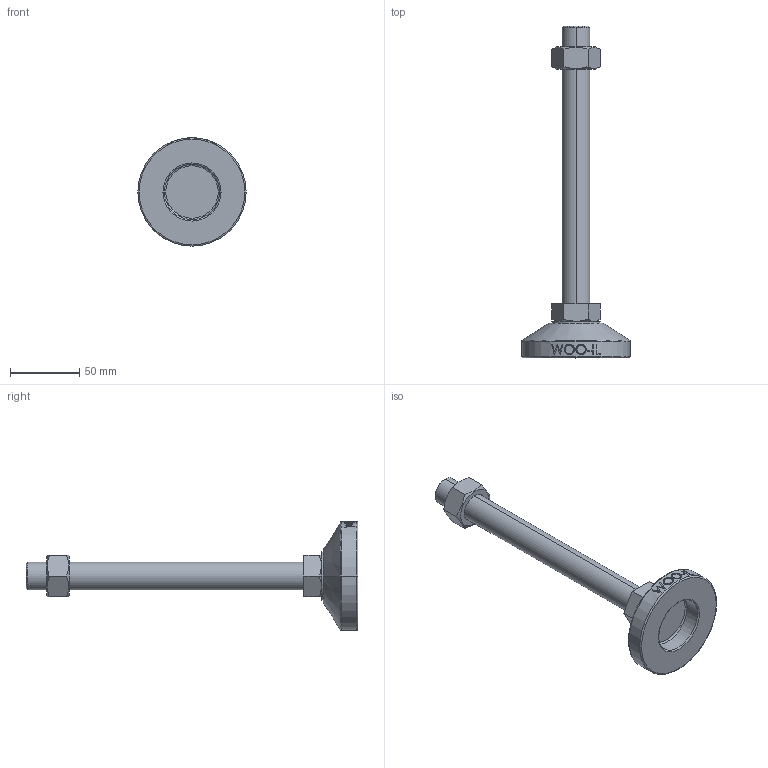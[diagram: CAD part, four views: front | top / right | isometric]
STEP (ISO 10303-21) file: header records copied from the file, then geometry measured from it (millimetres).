
FILE_DESCRIPTION (( 'STEP AP214' ), '1' );
FILE_NAME ('MF78-M20-200.step', '2021-02-03T08:21:46', ( '' ), ( '' ), 'SwSTEP 2.0', 'SolidWorks 2019', '' );
FILE_SCHEMA (( 'AUTOMOTIVE_DESIGN' ));
Length unit declared in the file: millimetre
Products named in the file (2): MF78-M20-200
Bounding box: 78 x 239 x 78 mm (x, y, z)
Volume: 160057.8 mm3; surface area: 33560.8 mm2
Topology: 3 solids, 3 shells, 106 faces, 247 edges, 158 vertices
Faces by surface type: plane 48, cylinder 18, bspline 16, cone 14, torus 10
Entity records: 4564 total; most frequent: CARTESIAN_POINT 2201, ORIENTED_EDGE 494, DIRECTION 439, EDGE_CURVE 247, AXIS2_PLACEMENT_3D 170, VERTEX_POINT 158, EDGE_LOOP 119, ADVANCED_FACE 106
